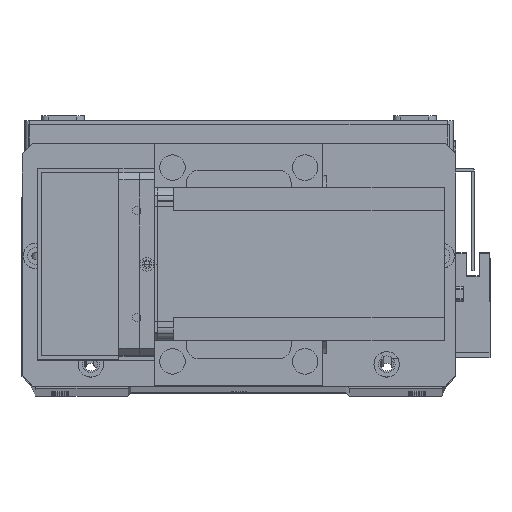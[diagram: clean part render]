
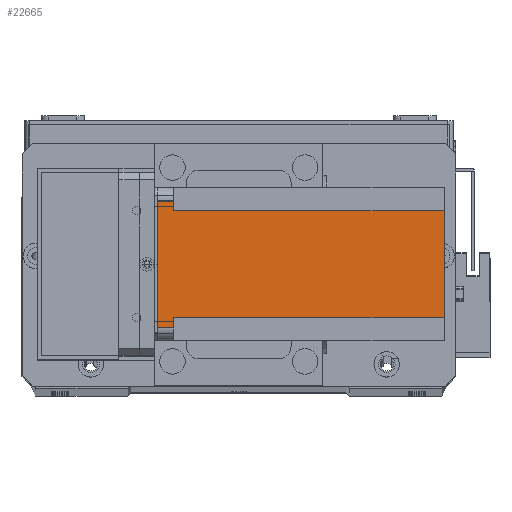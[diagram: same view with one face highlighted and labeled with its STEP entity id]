
A CAD part, top view. The second image highlights one B-rep face of the part: STEP entity #22665.
In plain terms, the highlighted planar face has unit normal (0, 0, 1) as drawn and (-1, 0, 0) by its records, which use the part's own axes.
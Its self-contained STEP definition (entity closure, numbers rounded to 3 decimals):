
#573 = PLANE ( 'NONE',  #8609 ) ;
#712 = EDGE_CURVE ( 'NONE', #8716, #2647, #917, .T. ) ;
#721 = CARTESIAN_POINT ( 'NONE',  ( 0., 9., -112.5 ) ) ;
#917 = LINE ( 'NONE', #10723, #26965 ) ;
#1133 = VERTEX_POINT ( 'NONE', #16043 ) ;
#1303 = CARTESIAN_POINT ( 'NONE',  ( 0., 5., -6.5 ) ) ;
#1453 = VECTOR ( 'NONE', #15040, 1000. ) ;
#1486 = VECTOR ( 'NONE', #16288, 1000. ) ;
#2101 = CARTESIAN_POINT ( 'NONE',  ( 0., 5., 0. ) ) ;
#2471 = CARTESIAN_POINT ( 'NONE',  ( 0., 51., -112.5 ) ) ;
#2647 = VERTEX_POINT ( 'NONE', #2101 ) ;
#2777 = VECTOR ( 'NONE', #8285, 1000. ) ;
#3547 = DIRECTION ( 'NONE',  ( 0., -1., 0. ) ) ;
#4217 = CARTESIAN_POINT ( 'NONE',  ( 0., 0., 0. ) ) ;
#5638 = DIRECTION ( 'NONE',  ( -1., 0., 0. ) ) ;
#5870 = LINE ( 'NONE', #31096, #31909 ) ;
#6483 = EDGE_CURVE ( 'NONE', #31404, #2647, #13232, .T. ) ;
#6966 = VERTEX_POINT ( 'NONE', #16711 ) ;
#7276 = FACE_OUTER_BOUND ( 'NONE', #17068, .T. ) ;
#8285 = DIRECTION ( 'NONE',  ( 0., 0., -1. ) ) ;
#8609 = AXIS2_PLACEMENT_3D ( 'NONE', #20735, #5638, #23295 ) ;
#8716 = VERTEX_POINT ( 'NONE', #1303 ) ;
#9261 = ORIENTED_EDGE ( 'NONE', *, *, #6483, .F. ) ;
#9687 = ORIENTED_EDGE ( 'NONE', *, *, #12591, .F. ) ;
#9698 = VERTEX_POINT ( 'NONE', #10504 ) ;
#10114 = ORIENTED_EDGE ( 'NONE', *, *, #27494, .F. ) ;
#10504 = CARTESIAN_POINT ( 'NONE',  ( 0., 55., -6.5 ) ) ;
#10723 = CARTESIAN_POINT ( 'NONE',  ( 0., 5., -112.5 ) ) ;
#10853 = ORIENTED_EDGE ( 'NONE', *, *, #712, .T. ) ;
#11294 = CARTESIAN_POINT ( 'NONE',  ( 0., 60., -6.5 ) ) ;
#11407 = DIRECTION ( 'NONE',  ( 0., 1., 0. ) ) ;
#12591 = EDGE_CURVE ( 'NONE', #21925, #6966, #21585, .T. ) ;
#13232 = LINE ( 'NONE', #4217, #20731 ) ;
#15040 = DIRECTION ( 'NONE',  ( 0., 0., 1. ) ) ;
#16034 = ORIENTED_EDGE ( 'NONE', *, *, #30051, .T. ) ;
#16043 = CARTESIAN_POINT ( 'NONE',  ( 0., 9., -6.5 ) ) ;
#16288 = DIRECTION ( 'NONE',  ( 0., 0., -1. ) ) ;
#16422 = VECTOR ( 'NONE', #3547, 1000. ) ;
#16711 = CARTESIAN_POINT ( 'NONE',  ( 0., 51., -6.5 ) ) ;
#17068 = EDGE_LOOP ( 'NONE', ( #29783, #10853, #9261, #16034, #32055, #9687, #23512, #10114 ) ) ;
#18007 = LINE ( 'NONE', #28802, #16422 ) ;
#19313 = DIRECTION ( 'NONE',  ( 0., -1., 0. ) ) ;
#19901 = EDGE_CURVE ( 'NONE', #8716, #1133, #5870, .T. ) ;
#20731 = VECTOR ( 'NONE', #19313, 1000. ) ;
#20735 = CARTESIAN_POINT ( 'NONE',  ( 0., 0., -112.5 ) ) ;
#20765 = LINE ( 'NONE', #11294, #26701 ) ;
#20835 = CARTESIAN_POINT ( 'NONE',  ( 0., 9., -112.5 ) ) ;
#21189 = EDGE_CURVE ( 'NONE', #21925, #22043, #18007, .T. ) ;
#21585 = LINE ( 'NONE', #2471, #1453 ) ;
#21621 = LINE ( 'NONE', #26354, #1486 ) ;
#21925 = VERTEX_POINT ( 'NONE', #26445 ) ;
#22043 = VERTEX_POINT ( 'NONE', #721 ) ;
#22665 = ADVANCED_FACE ( 'NONE', ( #7276 ), #573, .T. ) ;
#23295 = DIRECTION ( 'NONE',  ( 0., -1., 0. ) ) ;
#23512 = ORIENTED_EDGE ( 'NONE', *, *, #21189, .T. ) ;
#24514 = LINE ( 'NONE', #20835, #2777 ) ;
#26126 = DIRECTION ( 'NONE',  ( 0., 1., 0. ) ) ;
#26176 = DIRECTION ( 'NONE',  ( 0., 0., 1. ) ) ;
#26354 = CARTESIAN_POINT ( 'NONE',  ( 0., 55., -112.5 ) ) ;
#26445 = CARTESIAN_POINT ( 'NONE',  ( 0., 51., -112.5 ) ) ;
#26701 = VECTOR ( 'NONE', #11407, 1000. ) ;
#26965 = VECTOR ( 'NONE', #26176, 1000. ) ;
#27494 = EDGE_CURVE ( 'NONE', #1133, #22043, #24514, .T. ) ;
#27744 = CARTESIAN_POINT ( 'NONE',  ( 0., 55., 0. ) ) ;
#28802 = CARTESIAN_POINT ( 'NONE',  ( 0., 0., -112.5 ) ) ;
#29783 = ORIENTED_EDGE ( 'NONE', *, *, #19901, .F. ) ;
#30051 = EDGE_CURVE ( 'NONE', #31404, #9698, #21621, .T. ) ;
#31096 = CARTESIAN_POINT ( 'NONE',  ( 0., 0., -6.5 ) ) ;
#31404 = VERTEX_POINT ( 'NONE', #27744 ) ;
#31909 = VECTOR ( 'NONE', #26126, 1000. ) ;
#32055 = ORIENTED_EDGE ( 'NONE', *, *, #32122, .F. ) ;
#32122 = EDGE_CURVE ( 'NONE', #6966, #9698, #20765, .T. ) ;
